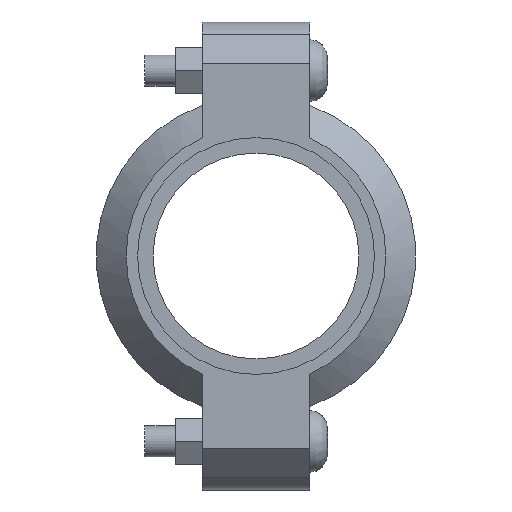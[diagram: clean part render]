
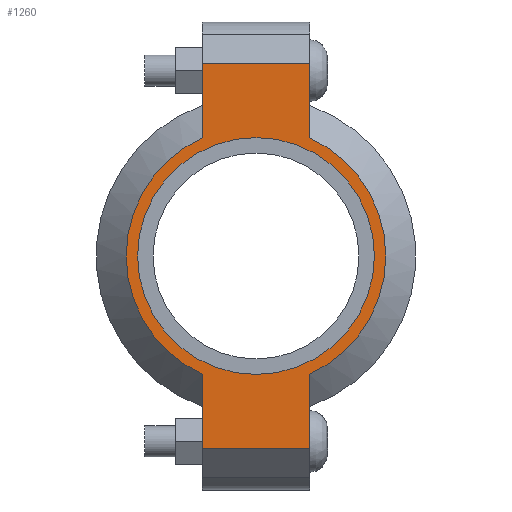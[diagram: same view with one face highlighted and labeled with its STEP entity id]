
A CAD part, left-side view. The second image highlights one B-rep face of the part: STEP entity #1260.
In plain terms, the highlighted planar face has unit normal (-1, 0, 0) as drawn and (0, 0, 1) by its records, which use the part's own axes.
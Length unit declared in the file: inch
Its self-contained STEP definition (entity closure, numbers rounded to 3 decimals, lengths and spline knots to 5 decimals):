
#101=LINE('',#2156,#188);
#109=LINE('',#2192,#196);
#116=LINE('',#2213,#203);
#125=LINE('',#2245,#212);
#126=LINE('',#2249,#213);
#127=LINE('',#2251,#214);
#188=VECTOR('',#1755,0.3937);
#196=VECTOR('',#1771,0.3937);
#203=VECTOR('',#1790,0.3937);
#212=VECTOR('',#1815,0.3937);
#213=VECTOR('',#1820,0.3937);
#214=VECTOR('',#1821,0.3937);
#258=FACE_BOUND('',#406,.T.);
#318=FACE_OUTER_BOUND('',#405,.T.);
#405=EDGE_LOOP('',(#1032,#1033,#1034,#1035,#1036,#1037,#1038,#1039));
#406=EDGE_LOOP('',(#1040));
#454=CIRCLE('',#1415,1.4375);
#480=CIRCLE('',#1474,1.575);
#481=CIRCLE('',#1475,1.575);
#522=VERTEX_POINT('',#1972);
#565=VERTEX_POINT('',#2153);
#566=VERTEX_POINT('',#2155);
#577=VERTEX_POINT('',#2187);
#578=VERTEX_POINT('',#2191);
#585=VERTEX_POINT('',#2210);
#586=VERTEX_POINT('',#2212);
#596=VERTEX_POINT('',#2248);
#597=VERTEX_POINT('',#2250);
#648=EDGE_CURVE('',#522,#522,#454,.T.);
#709=EDGE_CURVE('',#566,#565,#101,.T.);
#723=EDGE_CURVE('',#578,#577,#109,.T.);
#733=EDGE_CURVE('',#586,#585,#116,.T.);
#748=EDGE_CURVE('',#578,#565,#125,.T.);
#749=EDGE_CURVE('',#577,#586,#480,.T.);
#750=EDGE_CURVE('',#596,#585,#126,.T.);
#751=EDGE_CURVE('',#596,#597,#127,.T.);
#752=EDGE_CURVE('',#597,#566,#481,.T.);
#1032=ORIENTED_EDGE('',*,*,#748,.F.);
#1033=ORIENTED_EDGE('',*,*,#723,.T.);
#1034=ORIENTED_EDGE('',*,*,#749,.T.);
#1035=ORIENTED_EDGE('',*,*,#733,.T.);
#1036=ORIENTED_EDGE('',*,*,#750,.F.);
#1037=ORIENTED_EDGE('',*,*,#751,.T.);
#1038=ORIENTED_EDGE('',*,*,#752,.T.);
#1039=ORIENTED_EDGE('',*,*,#709,.T.);
#1040=ORIENTED_EDGE('',*,*,#648,.T.);
#1127=PLANE('',#1473);
#1260=ADVANCED_FACE('',(#318,#258),#1127,.T.);
#1415=AXIS2_PLACEMENT_3D('',#1974,#1631,#1632);
#1473=AXIS2_PLACEMENT_3D('',#2246,#1816,#1817);
#1474=AXIS2_PLACEMENT_3D('',#2247,#1818,#1819);
#1475=AXIS2_PLACEMENT_3D('',#2252,#1822,#1823);
#1631=DIRECTION('center_axis',(0.,0.,-1.));
#1632=DIRECTION('ref_axis',(-1.,0.,0.));
#1755=DIRECTION('',(-1.,0.,0.));
#1771=DIRECTION('',(1.,0.,0.));
#1790=DIRECTION('',(1.,0.,0.));
#1815=DIRECTION('',(0.,1.,0.));
#1816=DIRECTION('center_axis',(0.,0.,1.));
#1817=DIRECTION('ref_axis',(1.,0.,0.));
#1818=DIRECTION('center_axis',(0.,0.,1.));
#1819=DIRECTION('ref_axis',(-1.,0.,0.));
#1820=DIRECTION('',(0.,-1.,0.));
#1821=DIRECTION('',(-1.,0.,0.));
#1822=DIRECTION('center_axis',(0.,0.,1.));
#1823=DIRECTION('ref_axis',(-1.,0.,0.));
#1972=CARTESIAN_POINT('',(1.4375,0.,0.94));
#1974=CARTESIAN_POINT('Origin',(0.,0.,0.94));
#2153=CARTESIAN_POINT('',(-2.34,0.65,0.94));
#2155=CARTESIAN_POINT('',(-1.43462,0.65,0.94));
#2156=CARTESIAN_POINT('',(-2.84,0.65,0.94));
#2187=CARTESIAN_POINT('',(-1.43462,-0.65,0.94));
#2191=CARTESIAN_POINT('',(-2.34,-0.65,0.94));
#2192=CARTESIAN_POINT('',(2.84,-0.65,0.94));
#2210=CARTESIAN_POINT('',(2.34,-0.65,0.94));
#2212=CARTESIAN_POINT('',(1.43462,-0.65,0.94));
#2213=CARTESIAN_POINT('',(2.84,-0.65,0.94));
#2245=CARTESIAN_POINT('',(-2.34,0.325,0.94));
#2246=CARTESIAN_POINT('Origin',(0.,0.,
0.94));
#2247=CARTESIAN_POINT('Origin',(0.,0.,0.94));
#2248=CARTESIAN_POINT('',(2.34,0.65,0.94));
#2249=CARTESIAN_POINT('',(2.34,-0.325,0.94));
#2250=CARTESIAN_POINT('',(1.43462,0.65,0.94));
#2251=CARTESIAN_POINT('',(-2.84,0.65,0.94));
#2252=CARTESIAN_POINT('Origin',(0.,0.,0.94));
